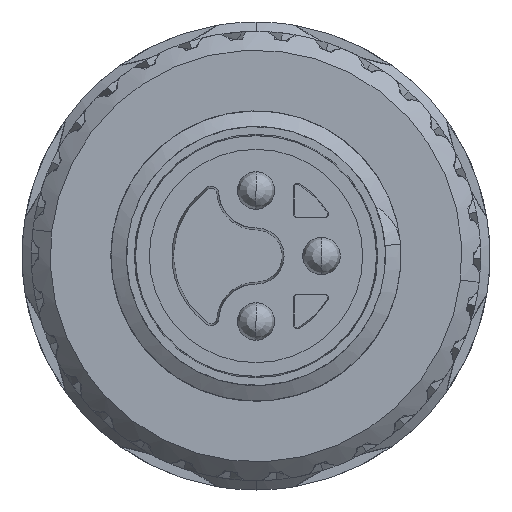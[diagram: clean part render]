
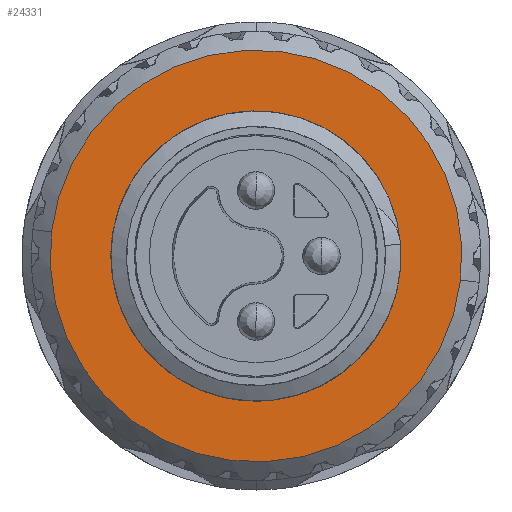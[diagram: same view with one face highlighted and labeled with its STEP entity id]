
A CAD part, front view. The second image highlights one B-rep face of the part: STEP entity #24331.
In plain terms, the highlighted planar face has unit normal (0, -1, 0).
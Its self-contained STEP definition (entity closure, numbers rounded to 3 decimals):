
#1317 = DIRECTION ( 'NONE',  ( 0., -1., 0. ) ) ;
#1938 = EDGE_LOOP ( 'NONE', ( #102059, #83715 ) ) ;
#4854 = VERTEX_POINT ( 'NONE', #89713 ) ;
#6350 = CARTESIAN_POINT ( 'NONE',  ( -1.687, -8.5, -3.232 ) ) ;
#7601 = CARTESIAN_POINT ( 'NONE',  ( -2.988, -8.5, -2.29 ) ) ;
#8803 = PLANE ( 'NONE',  #115840 ) ;
#13200 = CARTESIAN_POINT ( 'NONE',  ( -3.773, -8.5, -0.883 ) ) ;
#15987 = CARTESIAN_POINT ( 'NONE',  ( -3.273, -8.5, -1.928 ) ) ;
#16440 = B_SPLINE_CURVE_WITH_KNOTS ( 'NONE', 3,
 ( #112449, #122083, #27378, #73912, #35770, #113278, #64674, #94405, #16478, #92742, #46647, #55449, #25726, #37015, #93576, #65091, #36183, #112858 ),
 .UNSPECIFIED., .F., .F.,
 ( 4, 2, 2, 2, 2, 2, 2, 2, 4 ),
 ( 0., 0.001, 0.001, 0.002, 0.003, 0.003, 0.004, 0.005, 0.006 ),
 .UNSPECIFIED. ) ;
#16478 = CARTESIAN_POINT ( 'NONE',  ( -0.225, -8.5, 3.656 ) ) ;
#17248 = CARTESIAN_POINT ( 'NONE',  ( -2.292, -8.5, -2.901 ) ) ;
#17661 = CARTESIAN_POINT ( 'NONE',  ( -1.248, -8.5, -3.388 ) ) ;
#17798 = ORIENTED_EDGE ( 'NONE', *, *, #118347, .F. ) ;
#19392 = EDGE_LOOP ( 'NONE', ( #75719, #17798, #36090, #23383, #71518, #25132 ) ) ;
#20766 = CARTESIAN_POINT ( 'NONE',  ( 2.1, -8.5, 2.748 ) ) ;
#21712 = CIRCLE ( 'NONE', #87161, 3.459 ) ;
#23383 = ORIENTED_EDGE ( 'NONE', *, *, #116407, .F. ) ;
#24022 = CIRCLE ( 'NONE', #24784, 5.5 ) ;
#24331 = ADVANCED_FACE ( 'NONE', ( #70029, #46014 ), #8803, .F. ) ;
#24784 = AXIS2_PLACEMENT_3D ( 'NONE', #102935, #123021, #112968 ) ;
#25132 = ORIENTED_EDGE ( 'NONE', *, *, #70552, .F. ) ;
#25726 = CARTESIAN_POINT ( 'NONE',  ( -1.585, -8.5, 3.416 ) ) ;
#26477 = CARTESIAN_POINT ( 'NONE',  ( -3.704, -8.5, -1.106 ) ) ;
#27358 = CARTESIAN_POINT ( 'NONE',  ( 3.435, -8.5, -0.405 ) ) ;
#27378 = CARTESIAN_POINT ( 'NONE',  ( 1.74, -8.5, 3.04 ) ) ;
#30054 = AXIS2_PLACEMENT_3D ( 'NONE', #57936, #1317, #106930 ) ;
#31211 = CARTESIAN_POINT ( 'NONE',  ( -2.932, -8.5, 2.533 ) ) ;
#31818 = VERTEX_POINT ( 'NONE', #20766 ) ;
#33493 = EDGE_CURVE ( 'NONE', #4854, #64661, #21712, .T. ) ;
#34964 = CARTESIAN_POINT ( 'NONE',  ( 0., -8.5, 0. ) ) ;
#35672 = CARTESIAN_POINT ( 'NONE',  ( 0., -8.5, 0. ) ) ;
#35770 = CARTESIAN_POINT ( 'NONE',  ( 1.127, -8.5, 3.374 ) ) ;
#36090 = ORIENTED_EDGE ( 'NONE', *, *, #33493, .F. ) ;
#36183 = CARTESIAN_POINT ( 'NONE',  ( -2.768, -8.5, 2.698 ) ) ;
#36353 = AXIS2_PLACEMENT_3D ( 'NONE', #98618, #89397, #40787 ) ;
#37015 = CARTESIAN_POINT ( 'NONE',  ( -2.005, -8.5, 3.227 ) ) ;
#38124 = VERTEX_POINT ( 'NONE', #31211 ) ;
#38479 = EDGE_CURVE ( 'NONE', #31818, #38124, #16440, .T. ) ;
#40787 = DIRECTION ( 'NONE',  ( 0.993, 0., -0.117 ) ) ;
#42501 = VERTEX_POINT ( 'NONE', #63832 ) ;
#46014 = FACE_OUTER_BOUND ( 'NONE', #1938, .T. ) ;
#46543 = DIRECTION ( 'NONE',  ( 0., -1., 0. ) ) ;
#46647 = CARTESIAN_POINT ( 'NONE',  ( -0.915, -8.5, 3.6 ) ) ;
#53278 = DIRECTION ( 'NONE',  ( 0., -1., 0. ) ) ;
#53622 = CARTESIAN_POINT ( 'NONE',  ( -3.848, -8.5, 0.454 ) ) ;
#55449 = CARTESIAN_POINT ( 'NONE',  ( -1.367, -8.5, 3.49 ) ) ;
#55762 = DIRECTION ( 'NONE',  ( 0., 1., 0. ) ) ;
#56180 = CIRCLE ( 'NONE', #58717, 3.875 ) ;
#56974 = EDGE_CURVE ( 'NONE', #95794, #109532, #56180, .T. ) ;
#57936 = CARTESIAN_POINT ( 'NONE',  ( 0., -8.5, 0. ) ) ;
#58717 = AXIS2_PLACEMENT_3D ( 'NONE', #110690, #53278, #80943 ) ;
#63493 = VERTEX_POINT ( 'NONE', #118425 ) ;
#63765 = CARTESIAN_POINT ( 'NONE',  ( -3.773, -8.5, -0.883 ) ) ;
#63832 = CARTESIAN_POINT ( 'NONE',  ( -5.462, -8.5, 0.645 ) ) ;
#64661 = VERTEX_POINT ( 'NONE', #27358 ) ;
#64674 = CARTESIAN_POINT ( 'NONE',  ( 0.468, -8.5, 3.58 ) ) ;
#64992 = DIRECTION ( 'NONE',  ( 0.993, 0., -0.117 ) ) ;
#65022 = CARTESIAN_POINT ( 'NONE',  ( -3.4, -8.5, -1.731 ) ) ;
#65091 = CARTESIAN_POINT ( 'NONE',  ( -2.59, -8.5, 2.847 ) ) ;
#70029 = FACE_BOUND ( 'NONE', #19392, .T. ) ;
#70104 = EDGE_CURVE ( 'NONE', #63493, #42501, #105004, .T. ) ;
#70552 = EDGE_CURVE ( 'NONE', #38124, #95794, #82527, .T. ) ;
#71518 = ORIENTED_EDGE ( 'NONE', *, *, #56974, .F. ) ;
#73912 = CARTESIAN_POINT ( 'NONE',  ( 1.34, -8.5, 3.275 ) ) ;
#74682 = CARTESIAN_POINT ( 'NONE',  ( -2.482, -8.5, -2.764 ) ) ;
#75719 = ORIENTED_EDGE ( 'NONE', *, *, #38479, .F. ) ;
#80943 = DIRECTION ( 'NONE',  ( -0.993, 0., 0.117 ) ) ;
#82527 = CIRCLE ( 'NONE', #30054, 3.875 ) ;
#83715 = ORIENTED_EDGE ( 'NONE', *, *, #104052, .F. ) ;
#84297 = CARTESIAN_POINT ( 'NONE',  ( -1.023, -8.5, -3.444 ) ) ;
#87161 = AXIS2_PLACEMENT_3D ( 'NONE', #115218, #46543, #113588 ) ;
#87858 = AXIS2_PLACEMENT_3D ( 'NONE', #34964, #92762, #112049 ) ;
#89397 = DIRECTION ( 'NONE',  ( 0., -1., 0. ) ) ;
#89713 = CARTESIAN_POINT ( 'NONE',  ( 0.585, -8.5, -3.409 ) ) ;
#92263 = CARTESIAN_POINT ( 'NONE',  ( 0.359, -8.5, -3.466 ) ) ;
#92671 = CARTESIAN_POINT ( 'NONE',  ( 0.13, -8.5, -3.501 ) ) ;
#92742 = CARTESIAN_POINT ( 'NONE',  ( -0.685, -8.5, 3.633 ) ) ;
#92762 = DIRECTION ( 'NONE',  ( 0., 1., 0. ) ) ;
#93087 = CARTESIAN_POINT ( 'NONE',  ( -1.896, -8.5, -3.134 ) ) ;
#93576 = CARTESIAN_POINT ( 'NONE',  ( -2.209, -8.5, 3.111 ) ) ;
#93921 = CARTESIAN_POINT ( 'NONE',  ( -0.568, -8.5, -3.511 ) ) ;
#94043 = CIRCLE ( 'NONE', #36353, 3.459 ) ;
#94405 = CARTESIAN_POINT ( 'NONE',  ( 0.008, -8.5, 3.645 ) ) ;
#95794 = VERTEX_POINT ( 'NONE', #53622 ) ;
#98618 = CARTESIAN_POINT ( 'NONE',  ( 0., -8.5, 0. ) ) ;
#102059 = ORIENTED_EDGE ( 'NONE', *, *, #70104, .F. ) ;
#102331 = CARTESIAN_POINT ( 'NONE',  ( 0.585, -8.5, -3.409 ) ) ;
#102935 = CARTESIAN_POINT ( 'NONE',  ( 0., -8.5, 0. ) ) ;
#104052 = EDGE_CURVE ( 'NONE', #42501, #63493, #24022, .T. ) ;
#105004 = CIRCLE ( 'NONE', #87858, 5.5 ) ;
#106930 = DIRECTION ( 'NONE',  ( -0.993, 0., 0.117 ) ) ;
#109532 = VERTEX_POINT ( 'NONE', #13200 ) ;
#110690 = CARTESIAN_POINT ( 'NONE',  ( 0., -8.5, 0. ) ) ;
#112049 = DIRECTION ( 'NONE',  ( 0.993, 0., -0.117 ) ) ;
#112449 = CARTESIAN_POINT ( 'NONE',  ( 2.1, -8.5, 2.748 ) ) ;
#112788 = CARTESIAN_POINT ( 'NONE',  ( -3.615, -8.5, -1.32 ) ) ;
#112858 = CARTESIAN_POINT ( 'NONE',  ( -2.932, -8.5, 2.533 ) ) ;
#112968 = DIRECTION ( 'NONE',  ( 0.993, 0., -0.117 ) ) ;
#113209 = CARTESIAN_POINT ( 'NONE',  ( -0.335, -8.5, -3.523 ) ) ;
#113278 = CARTESIAN_POINT ( 'NONE',  ( 0.692, -8.5, 3.525 ) ) ;
#113588 = DIRECTION ( 'NONE',  ( 0.993, 0., -0.117 ) ) ;
#115218 = CARTESIAN_POINT ( 'NONE',  ( 0., -8.5, 0. ) ) ;
#115840 = AXIS2_PLACEMENT_3D ( 'NONE', #35672, #55762, #64992 ) ;
#116407 = EDGE_CURVE ( 'NONE', #109532, #4854, #116936, .T. ) ;
#116936 = B_SPLINE_CURVE_WITH_KNOTS ( 'NONE', 3,
 ( #63765, #26477, #112788, #65022, #15987, #7601, #121590, #74682, #17248, #93087, #6350, #17661, #84297, #93921, #113209, #92671, #92263, #102331 ),
 .UNSPECIFIED., .F., .F.,
 ( 4, 2, 2, 2, 2, 2, 2, 2, 4 ),
 ( 0., 0.001, 0.001, 0.002, 0.003, 0.003, 0.004, 0.005, 0.006 ),
 .UNSPECIFIED. ) ;
#118347 = EDGE_CURVE ( 'NONE', #64661, #31818, #94043, .T. ) ;
#118425 = CARTESIAN_POINT ( 'NONE',  ( 5.462, -8.5, -0.645 ) ) ;
#121590 = CARTESIAN_POINT ( 'NONE',  ( -2.83, -8.5, -2.458 ) ) ;
#122083 = CARTESIAN_POINT ( 'NONE',  ( 1.926, -8.5, 2.904 ) ) ;
#123021 = DIRECTION ( 'NONE',  ( 0., 1., 0. ) ) ;
